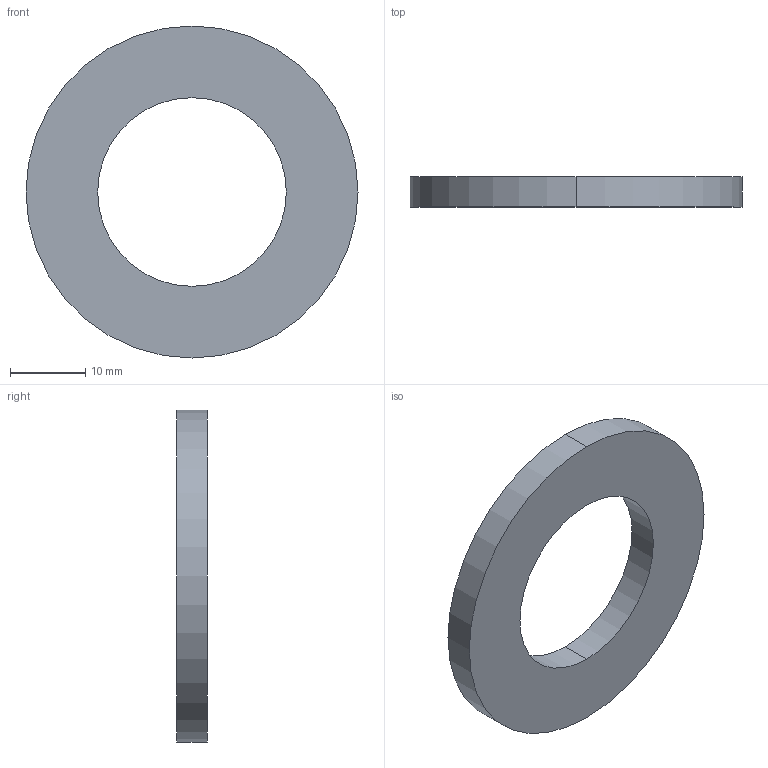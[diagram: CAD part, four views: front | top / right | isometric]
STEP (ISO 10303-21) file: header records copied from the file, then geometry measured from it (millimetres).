
FILE_DESCRIPTION (( 'STEP AP203' ), '1' );
FILE_NAME ('P0330.240-ZP.step', '2018-07-08T17:20:35', ( '' ), ( '' ), 'SwSTEP 2.0', 'SolidWorks 2017', '' );
FILE_SCHEMA (( 'CONFIG_CONTROL_DESIGN' ));
Length unit declared in the file: millimetre
Products named in the file (1): P0330.240-ZP
Bounding box: 44 x 4 x 44 mm (x, y, z)
Volume: 4118.6 mm3; surface area: 2926.4 mm2
Topology: 1 solids, 1 shells, 6 faces, 12 edges, 8 vertices
Faces by surface type: cylinder 4, plane 2
Entity records: 245 total; most frequent: DIRECTION 34, CARTESIAN_POINT 27, ORIENTED_EDGE 24, AXIS2_PLACEMENT_3D 15, EDGE_CURVE 12, CIRCLE 8, PERSON_AND_ORGANIZATION 8, EDGE_LOOP 8
